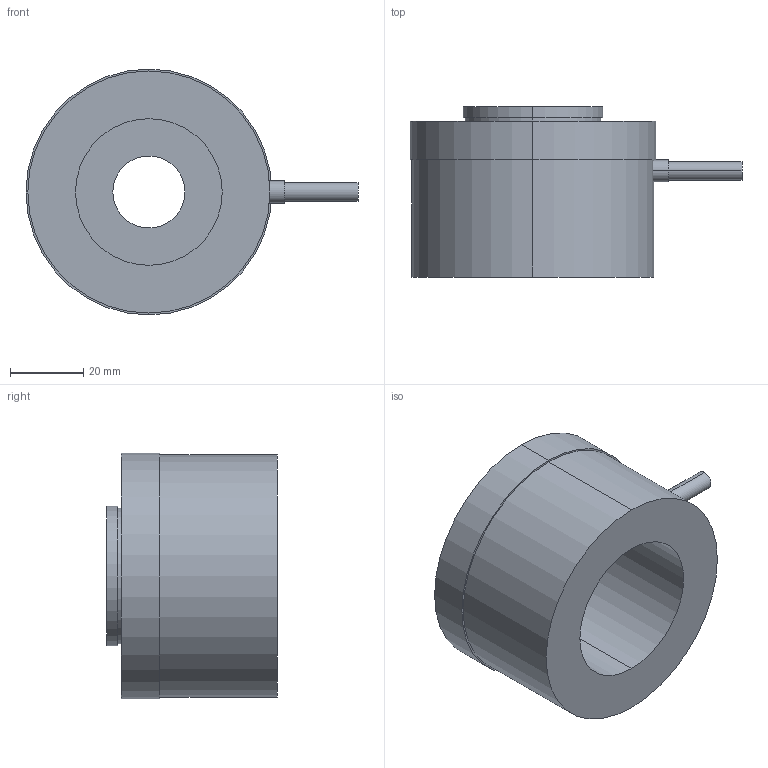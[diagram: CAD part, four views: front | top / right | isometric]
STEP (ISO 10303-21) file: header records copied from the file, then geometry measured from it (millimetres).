
FILE_DESCRIPTION (( 'STEP AP203' ), '1' );
FILE_NAME ('P76.Z100标准（上M38×0.75下RMS螺纹）三维图-2024.08.12.STEP', '2024-08-12T02:45:06', ( '微软用户' ), ( '微软中国' ), 'SwSTEP 2.0', 'SolidWorks 2016', '' );
FILE_SCHEMA (( 'CONFIG_CONTROL_DESIGN' ));
Length unit declared in the file: millimetre
Products named in the file (1): P76.Z100标准（上M38×0.75下RMS螺纹）三维图-2024.08.12
Bounding box: 90.5 x 46.5 x 67 mm (x, y, z)
Volume: 103057.4 mm3; surface area: 22690.8 mm2
Topology: 2 solids, 2 shells, 31 faces, 60 edges, 40 vertices
Faces by surface type: cylinder 20, plane 11
Entity records: 893 total; most frequent: DIRECTION 164, CARTESIAN_POINT 132, ORIENTED_EDGE 120, AXIS2_PLACEMENT_3D 72, EDGE_CURVE 60, EDGE_LOOP 40, CIRCLE 40, VERTEX_POINT 40
